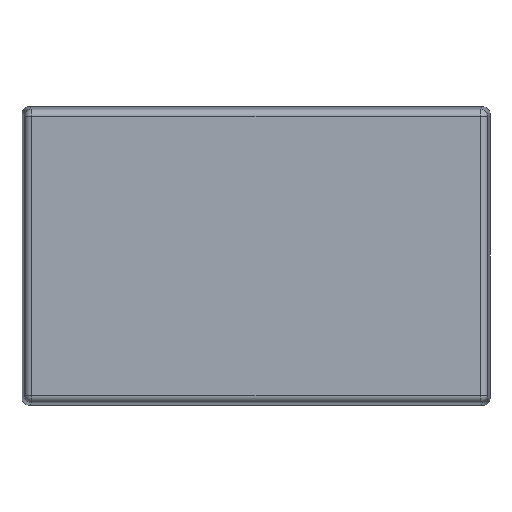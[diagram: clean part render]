
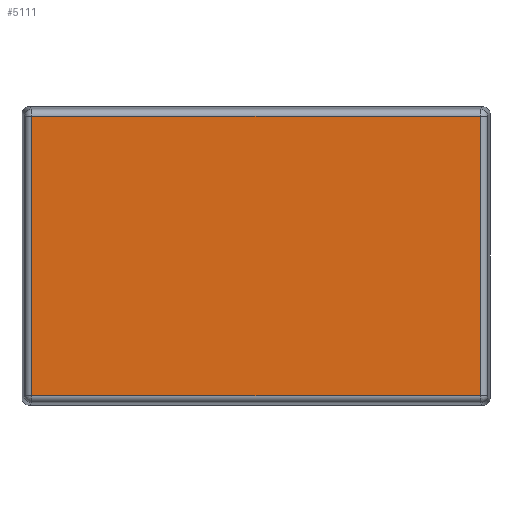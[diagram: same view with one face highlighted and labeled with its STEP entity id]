
A CAD part, front view. The second image highlights one B-rep face of the part: STEP entity #5111.
In plain terms, the highlighted planar face has unit normal (0, -1, 0).
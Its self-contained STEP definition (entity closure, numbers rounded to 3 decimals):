
#566 = EDGE_CURVE ( 'NONE', #4398, #7415, #1775, .T. ) ;
#1358 = CARTESIAN_POINT ( 'NONE',  ( 15.231, -10.2, 9.481 ) ) ;
#1423 = VECTOR ( 'NONE', #9488, 1000. ) ;
#1510 = LINE ( 'NONE', #12540, #2822 ) ;
#1702 = DIRECTION ( 'NONE',  ( -1., 0., 0. ) ) ;
#1775 = LINE ( 'NONE', #5727, #1423 ) ;
#1800 = LINE ( 'NONE', #4782, #6066 ) ;
#2822 = VECTOR ( 'NONE', #1702, 1000. ) ;
#3058 = CARTESIAN_POINT ( 'NONE',  ( -15.231, -10.2, -9.472 ) ) ;
#3251 = CARTESIAN_POINT ( 'NONE',  ( 15.231, -10.2, -9.481 ) ) ;
#3957 = EDGE_CURVE ( 'NONE', #5207, #7575, #1510, .T. ) ;
#4398 = VERTEX_POINT ( 'NONE', #12786 ) ;
#4782 = CARTESIAN_POINT ( 'NONE',  ( 15.231, -10.2, 9.472 ) ) ;
#4997 = PLANE ( 'NONE',  #5370 ) ;
#5013 = LINE ( 'NONE', #3058, #7496 ) ;
#5056 = DIRECTION ( 'NONE',  ( 0., 1., 0. ) ) ;
#5111 = ADVANCED_FACE ( 'NONE', ( #6804 ), #4997, .F. ) ;
#5207 = VERTEX_POINT ( 'NONE', #1358 ) ;
#5370 = AXIS2_PLACEMENT_3D ( 'NONE', #6873, #5056, #12001 ) ;
#5437 = ORIENTED_EDGE ( 'NONE', *, *, #10407, .T. ) ;
#5727 = CARTESIAN_POINT ( 'NONE',  ( 15.222, -10.2, -9.481 ) ) ;
#5990 = EDGE_LOOP ( 'NONE', ( #5437, #7398, #11729, #8604 ) ) ;
#6049 = DIRECTION ( 'NONE',  ( 0., 0., -1. ) ) ;
#6066 = VECTOR ( 'NONE', #11538, 1000. ) ;
#6804 = FACE_OUTER_BOUND ( 'NONE', #5990, .T. ) ;
#6873 = CARTESIAN_POINT ( 'NONE',  ( -15.9, -10.2, 10.15 ) ) ;
#7329 = CARTESIAN_POINT ( 'NONE',  ( -15.231, -10.2, 9.481 ) ) ;
#7398 = ORIENTED_EDGE ( 'NONE', *, *, #3957, .T. ) ;
#7415 = VERTEX_POINT ( 'NONE', #3251 ) ;
#7496 = VECTOR ( 'NONE', #6049, 1000. ) ;
#7575 = VERTEX_POINT ( 'NONE', #7329 ) ;
#8550 = EDGE_CURVE ( 'NONE', #7575, #4398, #5013, .T. ) ;
#8604 = ORIENTED_EDGE ( 'NONE', *, *, #566, .T. ) ;
#9488 = DIRECTION ( 'NONE',  ( 1., 0., 0. ) ) ;
#10407 = EDGE_CURVE ( 'NONE', #7415, #5207, #1800, .T. ) ;
#11538 = DIRECTION ( 'NONE',  ( 0., 0., 1. ) ) ;
#11729 = ORIENTED_EDGE ( 'NONE', *, *, #8550, .T. ) ;
#12001 = DIRECTION ( 'NONE',  ( 0., 0., 1. ) ) ;
#12540 = CARTESIAN_POINT ( 'NONE',  ( -15.222, -10.2, 9.481 ) ) ;
#12786 = CARTESIAN_POINT ( 'NONE',  ( -15.231, -10.2, -9.481 ) ) ;
